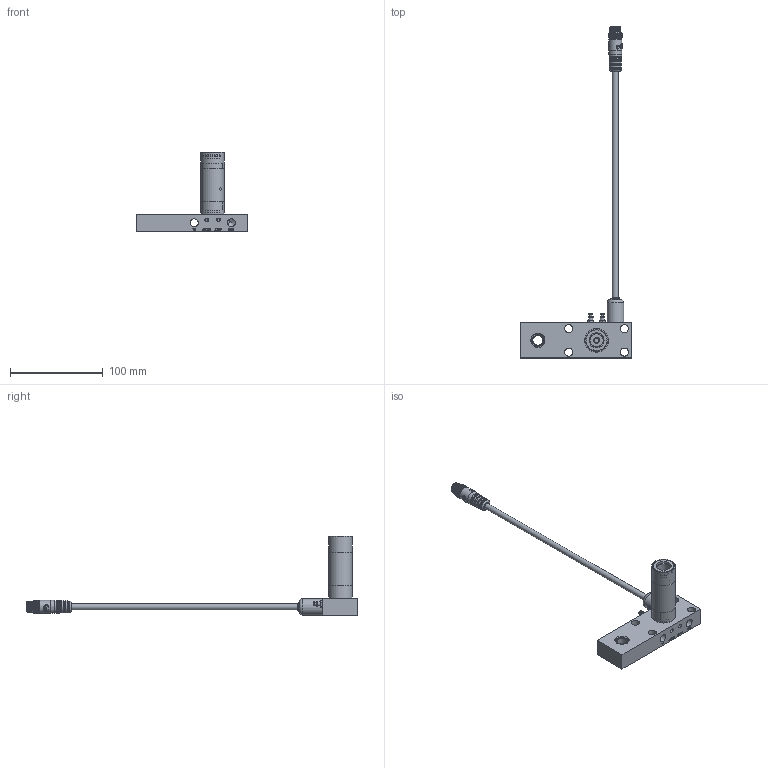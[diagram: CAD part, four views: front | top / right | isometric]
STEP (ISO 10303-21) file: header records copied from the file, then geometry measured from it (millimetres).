
FILE_DESCRIPTION(/* description */ ('ASSY,BODY,VF,IA,SXJR2,NHP_0002712608'),/* implementation_level */ '2;1');
FILE_NAME(/* name */ 'X:\ASSY,BODY,VF,IA,SXJR2,NHP_0002712608.stp',/* time_stamp */ '2021-07-07T13:01:24-04:00',/* author */ ('Simon.Britton'),/* organization */ (''),/* preprocessor_version */ 'ST-DEVELOPER v17',/* originating_system */ 'Autodesk Inventor 2019',/* authorisation */ '');
FILE_SCHEMA (('AUTOMOTIVE_DESIGN { 1 0 10303 214 3 1 1 }'));
Length unit declared in the file: centimetre
Products named in the file (1): ASSY,BODY,VF,IA,SXJR2,NHP
Bounding box: 120.65 x 358.79 x 85.72 mm (x, y, z)
Volume: 109306.2 mm3; surface area: 61568 mm2
Topology: 1 solids, 68 shells, 4066 faces, 9693 edges, 5830 vertices
Faces by surface type: bspline 2526, plane 753, cylinder 688, cone 66, torus 26, sphere 7
Full cylindrical faces by diameter (mm): 1 x5, 1.05 x5, 1.25 x10, 1.35 x5, 1.6 x10, 1.8 x5, 1.85 x5, 2 x1, 2.381 x2, 2.388 x8, 2.464 x1, 2.946 x2, 3 x1, 3.2 x1, 3.81 x2, 3.962 x6, 4.216 x4, 4.366 x1, 4.496 x2, 4.763 x2, 4.8 x3, 5.7 x1, 6.35 x4, 6.4 x1, 7 x1, 8.731 x8, 9.4 x1, 9.7 x2, 10.592 x1, 10.6 x2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
Entity records: 260377 total; most frequent: CARTESIAN_POINT 172860, ORIENTED_EDGE 19348, DIRECTION 13928, EDGE_CURVE 9674, AXIS2_PLACEMENT_3D 5870, VERTEX_POINT 5830, CIRCLE 4295, EDGE_LOOP 4269
